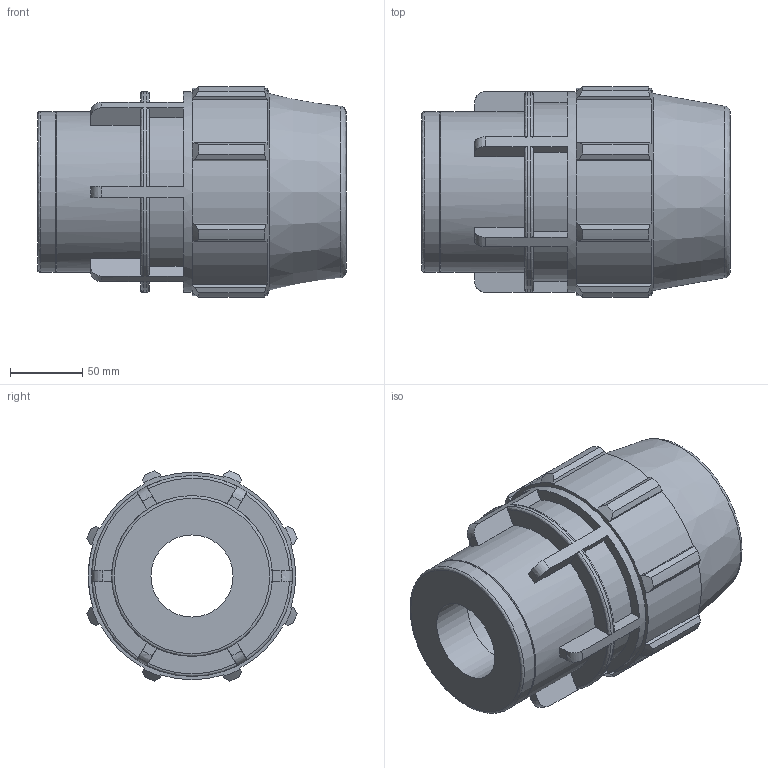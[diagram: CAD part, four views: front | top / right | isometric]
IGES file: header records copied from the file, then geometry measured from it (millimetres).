
Global section: file name: 0703060900200A.ipt; native system: Autodesk Inventor 2015; preprocessor: unknown; author: KIM; date: 20180325.201150; units: millimetre
Bounding box: 213 x 144.9 x 144.9 mm (x, y, z)
Volume: 1460176.4 mm3; surface area: 182142 mm2
Topology: 1 solids, 1 shells, 146 faces, 408 edges, 273 vertices
Faces by surface type: plane 85, cylinder 25, revolution 24, cone 12
Full cylindrical faces by diameter (mm): 110.88 x2, 138.6 x1
